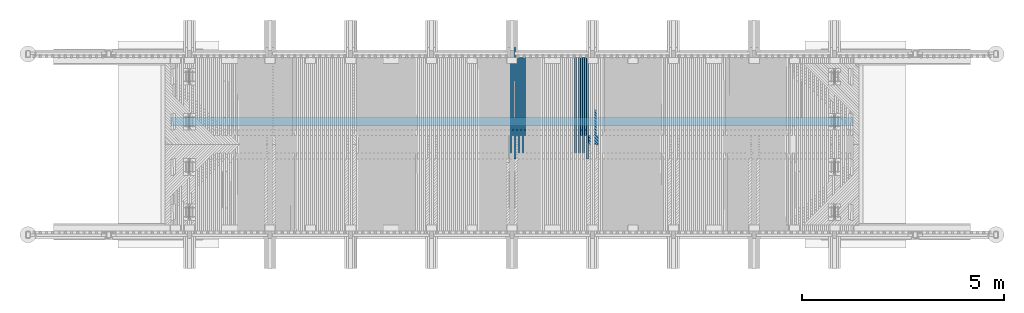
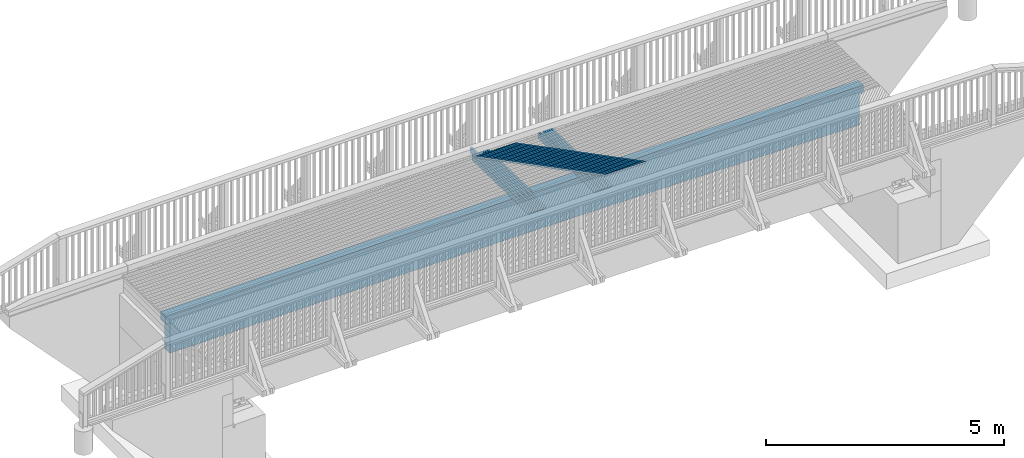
# One storey, part 34 of 53: 29 beams.
"""IFC2X3 building model written with IfcOpenShell, lengths in millimetres."""

from ifc_helpers import new_model, si_unit, frame, origin_with_axes, place, context, subcontext, project, spatial, faceted_brep, material, type_object, element, save


model = new_model("IFC2X3")

# Units and contexts
model_context = context("Model", 3, precision=1e-05, world=origin_with_axes())
body_context = subcontext(model_context, "Body", "Model", "MODEL_VIEW")
ifc_project = project(units=[si_unit("LENGTHUNIT", "METRE", prefix="MILLI"), si_unit("AREAUNIT", "SQUARE_METRE"), si_unit("VOLUMEUNIT", "CUBIC_METRE"), si_unit("MASSUNIT", "GRAM", prefix="KILO"), si_unit("TIMEUNIT", "SECOND"), si_unit("PLANEANGLEUNIT", "RADIAN"), si_unit("SOLIDANGLEUNIT", "STERADIAN"), si_unit("THERMODYNAMICTEMPERATUREUNIT", "DEGREE_CELSIUS"), si_unit("LUMINOUSINTENSITYUNIT", "LUMEN")], contexts=[model_context])

# Site, building, storey
site_placement = place(None, origin_with_axes())
site = spatial("IfcSite", under=ifc_project, at=site_placement, Name="Undefined", CompositionType="ELEMENT")
building_placement = place(site_placement, origin_with_axes())
building = spatial("IfcBuilding", under=site, at=building_placement, Name="Undefined", CompositionType="ELEMENT")
storey_placement = place(building_placement, origin_with_axes())
storey = spatial("IfcBuildingStorey", under=building, at=storey_placement, Name="Undefined", CompositionType="ELEMENT", Elevation=0.0)

# Beams
ifc_material = material(Name="TIMBER/Timber_Undefined")
beam_type_1 = type_object("IfcBeamType", Name="50*50", PredefinedType="NOTDEFINED")
for number, where, z_axis, x_axis, name in (
    (1, (10894.0405199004, 42365.4998996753, 3229.16691949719), (0.707044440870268, 0.706981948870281, -0.0162690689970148), (-0.707162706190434, 0.706948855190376, -0.0120092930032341), "BEAM"),
    (2, (10823.3170835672, 42365.4998996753, 3229.50270179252), (0.70704634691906, 0.706981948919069, -0.0161860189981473), (-0.707161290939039, 0.706948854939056, -0.0120923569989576), "BEAM"),
    (3, (10752.5936082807, 42365.4998996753, 3229.83017686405), (0.70704824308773, 0.706981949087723, -0.0161029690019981), (-0.707159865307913, 0.706948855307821, -0.0121754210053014), "BEAM"),
    (4, (10681.8700950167, 42365.4998996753, 3230.14934470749), (0.707050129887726, 0.706981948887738, -0.0160199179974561), (-0.707158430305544, 0.706948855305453, -0.0122584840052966), "BEAM"),
    (5, (10611.1465447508, 42365.4998996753, 3230.46020531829), (0.707052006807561, 0.70698194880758, -0.0159368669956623), (-0.707156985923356, 0.706948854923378, -0.0123415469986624), "BEAM"),
    (6, (10540.422958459, 42365.4998996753, 3230.76275869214), (0.707053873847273, 0.70698194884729, -0.0158538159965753), (-0.707155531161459, 0.706948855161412, -0.0124246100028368), "BEAM"),
    (7, (10469.6993371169, 42365.4998996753, 3231.05700482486), (0.707055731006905, 0.706981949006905, -0.0157707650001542), (-0.707154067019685, 0.706948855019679, -0.0125076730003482), "BEAM"),
    (8, (10398.9756817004, 42365.4998996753, 3231.34294371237), (0.707057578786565, 0.706981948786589, -0.0156877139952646), (-0.707152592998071, 0.706948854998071, -0.0125907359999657), "BEAM"),
    (9, (10328.2519931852, 42365.4998996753, 3231.62057535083), (0.707059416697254, 0.706981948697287, -0.0156046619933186), (-0.707151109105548, 0.706948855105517, -0.0126737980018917), "BEAM"),
    (10, (10257.5282725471, 42365.4998996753, 3231.88989973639), (0.707061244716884, 0.706981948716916, -0.0155216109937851), (-0.707149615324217, 0.706948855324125, -0.0127568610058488), "BEAM"),
    (11, (10186.8045207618, 42365.4998996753, 3232.15091686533), (0.707063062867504, 0.70698194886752, -0.0154385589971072), (-0.707148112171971, 0.706948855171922, -0.0128399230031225), "BEAM"),
    (12, (10116.0807388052, 42365.4998996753, 3232.40362673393), (0.707064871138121, 0.706981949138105, -0.0153555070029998), (-0.707146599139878, 0.706948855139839, -0.0129229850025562), "BEAM"),
    (13, (10045.356927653, 42365.4998996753, 3232.64802933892), (0.707066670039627, 0.706981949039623, -0.0152724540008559), (-0.707145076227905, 0.706948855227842, -0.0130060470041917), "BEAM"),
    (14, (9974.63308828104, 42365.4998996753, 3232.8841246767), (0.707068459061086, 0.706981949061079, -0.0151894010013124), (-0.707143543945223, 0.706948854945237, -0.0130891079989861), "BEAM"),
):
    element("IfcBeam", number, at=place(storey_placement, frame(where, z_axis=z_axis, x_axis=x_axis)), inside=storey, type_object=beam_type_1, material=ifc_material, Name=name, ObjectType="50*50", context=body_context, shape_type="Brep", body=[
        faceted_brep([(23.5869248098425, 25.0000000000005, -24.9999999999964), (-26.415415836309, 25.0000000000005, 25.0000000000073), (2802.92643296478, 25.0, 25.0), (2852.92877373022, 25.0, -25.0000000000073), (-25.001170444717, -24.9999999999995, 25.0000000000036), (2804.3406783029, -25.0, 24.9999999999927), (25.0011701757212, -24.9999999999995, -24.9999999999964), (2854.34301907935, -25.0, -25.0)], [[[0, 1, 2, 3]], [[1, 4, 5, 2]], [[4, 6, 7, 5]], [[6, 0, 3, 7]], [[5, 7, 3, 2]], [[6, 4, 1, 0]]]),
    ])
beam_type_2 = type_object("IfcBeamType", Name="150*50", PredefinedType="NOTDEFINED")
for number, where, z_axis, x_axis, name in (
    (15, (9875.54866800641, 44513.4953923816, 3090.22816959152), (0.00303381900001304, 0.0199960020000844, 0.999795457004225), (6.06930000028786e-05, -0.999800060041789, 0.0199959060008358), "BEAM"),
    (16, (9775.52909420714, 44513.4953923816, 3090.53149263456), (0.00286857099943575, 0.0199960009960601, 0.999795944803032), (5.73710000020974e-05, -0.999800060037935, 0.0199959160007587), "BEAM"),
):
    element("IfcBeam", number, at=place(storey_placement, frame(where, z_axis=z_axis, x_axis=x_axis)), inside=storey, type_object=beam_type_2, material=ifc_material, Name=name, ObjectType="150*50", context=body_context, shape_type="Brep", body=[
        faceted_brep([(1.28420651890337e-08, -24.9999999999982, -74.9999999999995), (1.28420651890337e-08, 25.0000000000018, -75.0), (2375.00494422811, 25.0000000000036, -75.0), (2375.0049444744, -24.9999999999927, -74.9999999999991), (-1.28347892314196e-08, -24.9999999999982, 75.0), (-1.28347892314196e-08, 25.0, 75.0), (2150.42515052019, 25.0000000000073, 75.0), (2510.59248715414, 25.0000000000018, 60.5875433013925), (2510.5924871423, -24.9999999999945, 60.5875430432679), (2150.42514405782, -24.9999999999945, 75.0)], [[[0, 1, 2, 3]], [[0, 4, 5, 1]], [[2, 1, 5, 6, 7]], [[3, 2, 7, 8]], [[4, 0, 3, 8, 9]], [[5, 4, 9, 6]], [[8, 7, 6, 9]]]),
    ])
beam_1_placement = place(storey_placement, frame((9825.54889674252, 44513.4953923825, 3090.37966862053), z_axis=(0.00303381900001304, 0.0199960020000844, 0.999795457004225), x_axis=(6.06930000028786e-05, -0.999800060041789, 0.0199959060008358)))
element("IfcBeam", 17, at=beam_1_placement, inside=storey, type_object=beam_type_2, material=ifc_material, Name="BEAM", ObjectType="150*50", context=body_context, shape_type="Brep", body=[
    faceted_brep([(1.28420651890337e-08, -24.9999999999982, -74.9999999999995), (-1.28347892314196e-08, -24.9999999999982, 75.0), (-1.28347892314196e-08, 25.0, 75.0), (1.28420651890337e-08, 25.0000000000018, -75.0), (1789.96936408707, 24.9999999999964, 75.0000000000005), (1928.42646328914, 24.9999999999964, -74.9999999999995), (1928.42646353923, -25.0000000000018, -75.0), (1789.96936433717, -25.0000000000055, 74.9999999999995)], [[[0, 1, 2, 3]], [[3, 2, 4, 5]], [[0, 3, 5, 6]], [[1, 0, 6, 7]], [[2, 1, 7, 4]], [[5, 4, 7, 6]]]),
])
beam_2_placement = place(storey_placement, frame((9675.50947138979, 44513.4953923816, 3090.81819688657), z_axis=(0.00270244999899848, 0.019996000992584, 0.999796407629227), x_axis=(5.40480000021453e-05, -0.999800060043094, 0.0199959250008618)))
element("IfcBeam", 18, at=beam_2_placement, inside=storey, type_object=beam_type_2, material=ifc_material, Name="BEAM", ObjectType="150*50", context=body_context, shape_type="Brep", body=[
    faceted_brep([(1.28420651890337e-08, -24.9999999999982, -74.9999999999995), (1.28420651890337e-08, 25.0000000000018, -75.0), (2375.00494422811, 25.0000000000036, -75.0), (2375.0049444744, -24.9999999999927, -74.9999999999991), (-1.28347892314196e-08, -24.9999999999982, 75.0), (-1.28347892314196e-08, 25.0, 75.0), (2150.42515052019, 25.0000000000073, 75.0), (2510.59248715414, 25.0000000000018, 60.5875433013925), (2510.5924871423, -24.9999999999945, 60.5875430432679), (2150.42514405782, -24.9999999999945, 75.0)], [[[0, 1, 2, 3]], [[0, 4, 5, 1]], [[2, 1, 5, 6, 7]], [[3, 2, 7, 8]], [[4, 0, 3, 8, 9]], [[5, 4, 9, 6]], [[8, 7, 6, 9]]]),
])
beam_3_placement = place(storey_placement, frame((9725.52929846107, 44513.4953923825, 3090.67468393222), z_axis=(0.00286857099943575, 0.0199960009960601, 0.999795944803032), x_axis=(5.73710000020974e-05, -0.999800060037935, 0.0199959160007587)))
element("IfcBeam", 19, at=beam_3_placement, inside=storey, type_object=beam_type_2, material=ifc_material, Name="BEAM", ObjectType="150*50", context=body_context, shape_type="Brep", body=[
    faceted_brep([(1.28420651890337e-08, -24.9999999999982, -74.9999999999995), (-1.28347892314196e-08, -24.9999999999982, 75.0), (-1.28347892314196e-08, 25.0, 75.0), (1.28420651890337e-08, 25.0000000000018, -75.0), (1789.96936408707, 24.9999999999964, 75.0000000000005), (1928.42646328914, 24.9999999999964, -74.9999999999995), (1928.42646353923, -25.0000000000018, -75.0), (1789.96936433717, -25.0000000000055, 74.9999999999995)], [[[0, 1, 2, 3]], [[3, 2, 4, 5]], [[0, 3, 5, 6]], [[1, 0, 6, 7]], [[2, 1, 7, 4]], [[5, 4, 7, 6]]]),
])
for number, where, z_axis, x_axis, name in (
    (20, (9575.48980231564, 44513.4953923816, 3091.08828233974), (0.0025363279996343, 0.0199960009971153, 0.999796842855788), (5.07260000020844e-05, -0.999800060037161, 0.0199959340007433), "BEAM"),
    (21, (8275.23115137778, 44513.4953923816, 3093.08707977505), (0.000376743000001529, 0.0199960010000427, 0.999799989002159), (7.53400000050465e-06, -0.999800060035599, 0.0199959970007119), "BEAM"),
):
    element("IfcBeam", number, at=place(storey_placement, frame(where, z_axis=z_axis, x_axis=x_axis)), inside=storey, type_object=beam_type_2, material=ifc_material, Name=name, ObjectType="150*50", context=body_context, shape_type="Brep", body=[
        faceted_brep([(1.28420651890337e-08, -24.9999999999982, -74.9999999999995), (1.28420651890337e-08, 25.0000000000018, -75.0), (2375.00494422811, 25.0000000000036, -75.0), (2375.0049444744, -24.9999999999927, -74.9999999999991), (-1.28347892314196e-08, -24.9999999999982, 75.0), (-1.28347892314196e-08, 25.0, 75.0), (2150.42515052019, 25.0000000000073, 75.0), (2510.59248715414, 25.0000000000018, 60.5875433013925), (2510.5924871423, -24.9999999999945, 60.5875430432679), (2150.42514405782, -24.9999999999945, 75.0)], [[[0, 1, 2, 3]], [[0, 4, 5, 1]], [[2, 1, 5, 6, 7]], [[3, 2, 7, 8]], [[4, 0, 3, 8, 9]], [[5, 4, 9, 6]], [[8, 7, 6, 9]]]),
    ])
beam_4_placement = place(storey_placement, frame((8325.25117695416, 44513.4953923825, 3093.05992196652), z_axis=(0.000542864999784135, 0.019996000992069, 0.999799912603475), x_axis=(1.08570000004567e-05, -0.999800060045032, 0.0199959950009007)))
element("IfcBeam", 22, at=beam_4_placement, inside=storey, type_object=beam_type_2, material=ifc_material, Name="BEAM", ObjectType="150*50", context=body_context, shape_type="Brep", body=[
    faceted_brep([(1.28420651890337e-08, -24.9999999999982, -74.9999999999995), (-1.28347892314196e-08, -24.9999999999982, 75.0), (-1.28347892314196e-08, 25.0, 75.0), (1.28420651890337e-08, 25.0000000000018, -75.0), (1789.96936408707, 24.9999999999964, 75.0000000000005), (1928.42646328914, 24.9999999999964, -74.9999999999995), (1928.42646353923, -25.0000000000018, -75.0), (1789.96936433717, -25.0000000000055, 74.9999999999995)], [[[0, 1, 2, 3]], [[3, 2, 4, 5]], [[0, 3, 5, 6]], [[1, 0, 6, 7]], [[2, 1, 7, 4]], [[5, 4, 7, 6]]]),
])
beam_5_placement = place(storey_placement, frame((8175.21112464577, 44513.4953923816, 3093.12450147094), z_axis=(0.000209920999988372, 0.0199960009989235, 0.999800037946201), x_axis=(4.21200000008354e-06, -0.999800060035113, 0.0199959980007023)))
element("IfcBeam", 23, at=beam_5_placement, inside=storey, type_object=beam_type_2, material=ifc_material, Name="BEAM", ObjectType="150*50", context=body_context, shape_type="Brep", body=[
    faceted_brep([(1.28420651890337e-08, -24.9999999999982, -74.9999999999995), (1.28420651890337e-08, 25.0000000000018, -75.0), (2375.00494422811, 25.0000000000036, -75.0), (2375.0049444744, -24.9999999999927, -74.9999999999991), (-1.28347892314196e-08, -24.9999999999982, 75.0), (-1.28347892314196e-08, 25.0, 75.0), (2150.42515052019, 25.0000000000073, 75.0), (2510.59248715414, 25.0000000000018, 60.5875433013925), (2510.5924871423, -24.9999999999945, 60.5875430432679), (2150.42514405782, -24.9999999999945, 75.0)], [[[0, 1, 2, 3]], [[0, 4, 5, 1]], [[2, 1, 5, 6, 7]], [[3, 2, 7, 8]], [[4, 0, 3, 8, 9]], [[5, 4, 9, 6]], [[8, 7, 6, 9]]]),
])
for number, where, z_axis, x_axis, name in (
    (24, (8225.23115404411, 44513.4953923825, 3093.10565475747), (0.000376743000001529, 0.0199960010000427, 0.999799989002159), (7.53400000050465e-06, -0.999800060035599, 0.0199959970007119), "BEAM"),
    (25, (8125.21112491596, 44513.4953923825, 3093.13476868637), (0.000209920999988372, 0.0199960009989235, 0.999800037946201), (4.21200000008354e-06, -0.999800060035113, 0.0199959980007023), "BEAM"),
):
    element("IfcBeam", number, at=place(storey_placement, frame(where, z_axis=z_axis, x_axis=x_axis)), inside=storey, type_object=beam_type_2, material=ifc_material, Name=name, ObjectType="150*50", context=body_context, shape_type="Brep", body=[
        faceted_brep([(1.28420651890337e-08, -24.9999999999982, -74.9999999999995), (-1.28347892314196e-08, -24.9999999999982, 75.0), (-1.28347892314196e-08, 25.0, 75.0), (1.28420651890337e-08, 25.0000000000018, -75.0), (1789.96936408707, 24.9999999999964, 75.0000000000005), (1928.42646328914, 24.9999999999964, -74.9999999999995), (1928.42646353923, -25.0000000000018, -75.0), (1789.96936433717, -25.0000000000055, 74.9999999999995)], [[[0, 1, 2, 3]], [[3, 2, 4, 5]], [[0, 3, 5, 6]], [[1, 0, 6, 7]], [[2, 1, 7, 4]], [[5, 4, 7, 6]]]),
    ])
beam_6_placement = place(storey_placement, frame((7975.1710594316, 44513.4953923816, 3093.14948827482), z_axis=(-0.000122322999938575, 0.0199960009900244, 0.999800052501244), x_axis=(-2.7550000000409e-06, -0.999800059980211, 0.0199960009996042)))
element("IfcBeam", 26, at=beam_6_placement, inside=storey, type_object=beam_type_2, material=ifc_material, Name="BEAM", ObjectType="150*50", context=body_context, shape_type="Brep", body=[
    faceted_brep([(1.28420651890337e-08, -24.9999999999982, -74.9999999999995), (1.28420651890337e-08, 25.0000000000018, -75.0), (2375.00494422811, 25.0000000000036, -75.0), (2375.0049444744, -24.9999999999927, -74.9999999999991), (-1.28347892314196e-08, -24.9999999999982, 75.0), (-1.28347892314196e-08, 25.0, 75.0), (2150.42515052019, 25.0000000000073, 75.0), (2510.59248715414, 25.0000000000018, 60.5875433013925), (2510.5924871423, -24.9999999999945, 60.5875430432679), (2150.42514405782, -24.9999999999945, 75.0)], [[[0, 1, 2, 3]], [[0, 4, 5, 1]], [[2, 1, 5, 6, 7]], [[3, 2, 7, 8]], [[4, 0, 3, 8, 9]], [[5, 4, 9, 6]], [[8, 7, 6, 9]]]),
])
beam_7_placement = place(storey_placement, frame((8025.19109233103, 44513.4953923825, 3093.14726375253), z_axis=(4.3799000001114e-05, 0.0199960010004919, 0.999800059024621), x_axis=(8.90000000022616e-07, -0.999800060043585, 0.0199959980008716)))
element("IfcBeam", 27, at=beam_7_placement, inside=storey, type_object=beam_type_2, material=ifc_material, Name="BEAM", ObjectType="150*50", context=body_context, shape_type="Brep", body=[
    faceted_brep([(1.28420651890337e-08, -24.9999999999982, -74.9999999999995), (-1.28347892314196e-08, -24.9999999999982, 75.0), (-1.28347892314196e-08, 25.0, 75.0), (1.28420651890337e-08, 25.0000000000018, -75.0), (1789.96936408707, 24.9999999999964, 75.0000000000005), (1928.42646328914, 24.9999999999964, -74.9999999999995), (1928.42646353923, -25.0000000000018, -75.0), (1789.96936433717, -25.0000000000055, 74.9999999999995)], [[[0, 1, 2, 3]], [[3, 2, 4, 5]], [[0, 3, 5, 6]], [[1, 0, 6, 7]], [[2, 1, 7, 4]], [[5, 4, 7, 6]]]),
])
beam_8_placement = place(storey_placement, frame((8075.17061305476, 44771.443807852, 3087.98545943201), z_axis=(4.3799000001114e-05, 0.0199960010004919, 0.999800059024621), x_axis=(8.90000000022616e-07, -0.999800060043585, 0.0199959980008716)))
element("IfcBeam", 28, at=beam_8_placement, inside=storey, type_object=beam_type_2, material=ifc_material, Name="BEAM", ObjectType="150*50", context=body_context, shape_type="Brep", body=[
    faceted_brep([(1.28420651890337e-08, -24.9999999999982, -74.9999999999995), (1.28420651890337e-08, 25.0000000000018, -75.0), (2633.00494750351, 25.0, -75.0), (2633.00494763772, -25.0, -75.0), (-1.28347892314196e-08, -24.9999999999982, 75.0), (-1.28347892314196e-08, 25.0, 75.0), (2408.42506824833, 24.9999999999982, 75.0), (2768.59248710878, 24.9999999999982, 60.5875398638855), (2768.59248713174, -25.0, 60.5875397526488), (2408.42506549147, -25.0000000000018, 75.0000000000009)], [[[0, 1, 2, 3]], [[0, 4, 5, 1]], [[2, 1, 5, 6, 7]], [[3, 2, 7, 8]], [[4, 0, 3, 8, 9]], [[5, 4, 9, 6]], [[8, 7, 6, 9]]]),
])
beam_type_3 = type_object("IfcBeamType", Name="990*215", PredefinedType="NOTDEFINED")
beam_9_placement = place(storey_placement, frame((243.613169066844, 42925.0, 2502.11879463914), z_axis=(0.0, 0.0, 1.0), x_axis=(1.0, 0.0, 0.0)))
element("IfcBeam", 29, at=beam_9_placement, inside=storey, type_object=beam_type_3, material=ifc_material, Name="PALKKI", ObjectType="990*215", context=body_context, shape_type="Brep", body=[
    faceted_brep([(16106.3868309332, 107.5, -494.790894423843), (16106.3868309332, -107.5, -494.790894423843), (16080.5342107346, -107.5, -494.790894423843), (15793.4597682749, -107.5, -494.790894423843), (15506.3868309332, -107.5, -494.958794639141), (15506.3868309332, 107.5, -494.958794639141), (15793.4597682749, 107.5, -494.790894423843), (16080.5342107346, 107.5, -494.790894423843), (16106.3868309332, 107.5, 285.209105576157), (16106.3868309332, -107.5, 285.209105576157), (16206.3868309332, 107.5, 285.209105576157), (16206.3868309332, -107.5, 285.209105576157), (16206.3868309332, 107.5, 485.682039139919), (16206.3868309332, -107.5, 485.682039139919), (-627.370013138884, 107.5, 486.625216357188), (-627.370013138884, -107.5, 486.625216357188), (-316.879497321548, -107.5, 490.87213125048), (-316.879497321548, 107.5, 490.87213125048), (-693.613169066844, -107.5, 485.684940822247), (-693.613169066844, -107.5, 285.209105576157), (-624.563039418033, -107.5, 285.209105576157), (-693.613169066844, 107.5, 485.684940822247), (-693.613169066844, 107.5, 285.209105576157), (-624.563039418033, 107.5, 285.209105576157), (-593.613169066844, 107.5, 285.209105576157), (-593.613169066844, -107.5, 285.209105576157), (-593.613169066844, 107.5, -494.790894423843), (-593.613169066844, -107.5, -494.790894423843), (-303.651924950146, -107.5, -494.790894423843), (-6.38683093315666, -107.5, 494.958794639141), (6.38683093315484, -107.5, -494.958794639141), (-6.38683093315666, 107.5, 494.958794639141), (6.38683093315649, 107.5, -494.790894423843), (304.107903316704, 107.5, 498.885205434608), (316.370645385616, 107.5, -491.038844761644), (-303.651924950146, 107.5, -494.790894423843), (316.370645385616, -107.5, -491.038844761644), (304.107903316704, -107.5, 498.885205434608), (614.604622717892, -107.5, 502.651362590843), (614.604622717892, 107.5, 502.651362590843), (626.356441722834, 107.5, -487.278884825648), (626.356441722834, -107.5, -487.278884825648), (936.344137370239, -107.5, -483.678915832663), (925.103244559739, -107.5, 506.257265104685), (925.103244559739, 107.5, 506.257265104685), (936.344137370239, 107.5, -483.678915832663), (1246.33364975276, 107.5, -480.238938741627), (1246.33364975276, -107.5, -480.238938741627), (1235.60368613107, -107.5, 509.702912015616), (1235.60368613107, 107.5, 509.702912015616), (1546.10586472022, 107.5, 512.988302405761), (1556.32489629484, 107.5, -476.958954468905), (1556.32489629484, -107.5, -476.958954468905), (1546.10586472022, -107.5, 512.988302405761), (1856.60969761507, -107.5, 516.113435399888), (1856.60969761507, 107.5, 516.113435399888), (1866.31779442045, 107.5, -473.838963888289), (1866.31779442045, -107.5, -473.838963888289), (2176.31226155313, -107.5, -470.878967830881), (2167.11510210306, -107.5, 519.078310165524), (2167.11510210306, 107.5, 519.078310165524), (2176.31226155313, 107.5, -470.878967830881), (2486.30821511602, 107.5, -468.078967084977), (2486.30821511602, -107.5, -468.078967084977), (2477.6219954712, -107.5, 521.882925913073), (2477.6219954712, 107.5, 521.882925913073), (2788.13029500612, 107.5, 524.527281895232), (2796.30557253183, 107.5, -465.438962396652), (2796.30557253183, -107.5, -465.438962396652), (2788.13029500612, -107.5, 524.527281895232), (3098.63991799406, -107.5, 527.011377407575), (3098.63991799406, 107.5, 527.011377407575), (3106.30425122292, 107.5, -462.958954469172), (3106.30425122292, -107.5, -462.958954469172), (3416.30416861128, -107.5, -460.638943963), (3409.15078172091, -107.5, 529.335211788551), (3409.15078172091, 107.5, 529.335211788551), (3416.30416861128, 107.5, -460.638943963), (3726.30524211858, 107.5, -458.478931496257), (3726.30524211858, -107.5, -458.478931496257), (3719.66280347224, -107.5, 531.49878441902), (3719.66280347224, 107.5, 531.49878441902), (4030.1759005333, 107.5, 533.502094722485), (4036.3073891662, 107.5, -456.478917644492), (4036.3073891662, -107.5, -456.478917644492), (4030.1759005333, -107.5, 533.502094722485), (4340.68999018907, -107.5, 535.345142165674), (4340.68999018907, 107.5, 535.345142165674), (4346.3105271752, 107.5, -454.638902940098), (4346.3105271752, -107.5, -454.638902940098), (4656.31457356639, -107.5, -452.958887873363), (4651.20498972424, -107.5, 537.027926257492), (4651.20498972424, 107.5, 537.027926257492), (4656.31457356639, 107.5, -452.958887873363), (4966.31944576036, 107.5, -451.438872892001), (4966.31944576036, -107.5, -451.438872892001), (4961.72081642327, -107.5, 538.550446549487), (4961.72081642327, 107.5, 538.550446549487), (5272.23738757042, 107.5, 539.912702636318), (5276.32506117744, 107.5, -450.078858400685), (5276.32506117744, -107.5, -450.078858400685), (5272.23738757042, -107.5, 539.912702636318), (5582.75462044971, -107.5, 541.114694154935), (5582.75462044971, 107.5, 541.114694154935), (5586.33133723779, 107.5, -448.878844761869), (5586.33133723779, -107.5, -448.878844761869), (5896.33819136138, -107.5, -447.838832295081), (5893.27243234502, -107.5, 542.156420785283), (5893.27243234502, 107.5, 542.156420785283), (5896.33819136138, 107.5, -447.838832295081), (6206.34554096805, 107.5, -446.958821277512), (6206.34554096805, -107.5, -446.958821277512), (6203.79074054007, -107.5, 543.037882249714), (6203.79074054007, 107.5, 543.037882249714), (6514.30946231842, 107.5, 543.759078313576), (6516.35330347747, 107.5, -446.238811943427), (6516.35330347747, -107.5, -446.238811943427), (6514.30946231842, -107.5, 543.759078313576), (6824.82851496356, -107.5, 544.320008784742), (6824.82851496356, 107.5, 544.320008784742), (6826.36139630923, 107.5, -445.678804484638), (6826.36139630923, -107.5, -445.678804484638), (7136.36973688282, -107.5, -445.278799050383), (7135.34781575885, -107.5, 544.720673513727), (7135.34781575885, 107.5, 544.720673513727), (7136.36973688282, 107.5, -445.278799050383), (7446.37824261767, 107.5, -445.038795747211), (7446.37824261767, -107.5, -445.038795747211), (7445.86728198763, -107.5, 544.961072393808), (7445.86728198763, 107.5, 544.961072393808), (7756.38683093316, 107.5, 545.041205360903), (7756.38683093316, 107.5, -444.958794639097), (7756.38683093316, -107.5, -444.958794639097), (7756.38683093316, -107.5, 545.041205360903), (8066.90637987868, -107.5, 544.961072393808), (8066.90637987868, 107.5, 544.961072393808), (8066.39541924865, 107.5, -445.038795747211), (8066.39541924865, -107.5, -445.038795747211), (8376.40392498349, -107.5, -445.278799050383), (8377.42584610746, -107.5, 544.720673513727), (8377.42584610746, 107.5, 544.720673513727), (8376.40392498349, 107.5, -445.278799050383), (8686.41226555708, 107.5, -445.678804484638), (8686.41226555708, -107.5, -445.678804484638), (8687.94514690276, -107.5, 544.320008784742), (8687.94514690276, 107.5, 544.320008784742), (8998.46419954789, 107.5, 543.759078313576), (8996.42035838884, 107.5, -446.238811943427), (8996.42035838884, -107.5, -446.238811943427), (8998.46419954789, -107.5, 543.759078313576), (9308.98292132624, -107.5, 543.037882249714), (9308.98292132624, 107.5, 543.037882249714), (9306.42812089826, 107.5, -446.958821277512), (9306.42812089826, -107.5, -446.958821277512), (9616.43547050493, -107.5, -447.838832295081), (9619.50122952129, -107.5, 542.156420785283), (9619.50122952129, 107.5, 542.156420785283), (9616.43547050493, 107.5, -447.838832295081), (9926.44232462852, 107.5, -448.878844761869), (9926.44232462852, -107.5, -448.878844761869), (9930.0190414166, -107.5, 541.114694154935), (9930.0190414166, 107.5, 541.114694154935), (10240.5362742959, 107.5, 539.912702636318), (10236.4486006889, 107.5, -450.078858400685), (10236.4486006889, -107.5, -450.078858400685), (10240.5362742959, -107.5, 539.912702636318), (10551.052845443, -107.5, 538.550446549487), (10551.052845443, 107.5, 538.550446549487), (10546.454216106, 107.5, -451.438872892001), (10546.454216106, -107.5, -451.438872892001), (10856.4590882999, -107.5, -452.958887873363), (10861.5686721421, -107.5, 537.027926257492), (10861.5686721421, 107.5, 537.027926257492), (10856.4590882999, 107.5, -452.958887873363), (11166.4631346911, 107.5, -454.638902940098), (11166.4631346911, -107.5, -454.638902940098), (11172.0836716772, -107.5, 535.345142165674), (11172.0836716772, 107.5, 535.345142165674), (11482.597761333, 107.5, 533.502094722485), (11476.4662727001, 107.5, -456.478917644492), (11476.4662727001, -107.5, -456.478917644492), (11482.597761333, -107.5, 533.502094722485), (11793.1108583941, -107.5, 531.49878441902), (11793.1108583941, 107.5, 531.49878441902), (11786.4684197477, 107.5, -458.478931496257), (11786.4684197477, -107.5, -458.478931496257), (12096.469493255, -107.5, -460.638943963), (12103.6228801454, -107.5, 529.335211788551), (12103.6228801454, 107.5, 529.335211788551), (12096.469493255, 107.5, -460.638943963), (12406.4694106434, 107.5, -462.958954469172), (12406.4694106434, -107.5, -462.958954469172), (12414.1337438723, -107.5, 527.011377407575), (12414.1337438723, 107.5, 527.011377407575), (12724.6433668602, 107.5, 524.527281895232), (12716.4680893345, 107.5, -465.438962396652), (12716.4680893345, -107.5, -465.438962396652), (12724.6433668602, -107.5, 524.527281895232), (13035.1516663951, -107.5, 521.882925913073), (13035.1516663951, 107.5, 521.882925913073), (13026.4654467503, 107.5, -468.078967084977), (13026.4654467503, -107.5, -468.078967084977), (13336.4614003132, -107.5, -470.878967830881), (13345.6585597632, -107.5, 519.078310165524), (13345.6585597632, 107.5, 519.078310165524), (13336.4614003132, 107.5, -470.878967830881), (13646.4558674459, 107.5, -473.838963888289), (13646.4558674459, -107.5, -473.838963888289), (13656.1639642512, -107.5, 516.113435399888), (13656.1639642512, 107.5, 516.113435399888), (13966.6677971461, 107.5, 512.988302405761), (13956.4487655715, 107.5, -476.958954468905), (13956.4487655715, -107.5, -476.958954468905), (13966.6677971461, -107.5, 512.988302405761), (14277.1699757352, -107.5, 509.702912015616), (14277.1699757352, 107.5, 509.702912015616), (14266.4400121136, 107.5, -480.238938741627), (14266.4400121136, -107.5, -480.238938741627), (14576.4295244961, -107.5, -483.678915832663), (14587.6704173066, -107.5, 506.257265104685), (14587.6704173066, 107.5, 506.257265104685), (14576.4295244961, 107.5, -483.678915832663), (14886.4172201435, 107.5, -487.278884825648), (14886.4172201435, -107.5, -487.278884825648), (14898.1690391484, -107.5, 502.651362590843), (14898.1690391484, 107.5, 502.651362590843), (15208.6657585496, 107.5, 498.885205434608), (15196.4030164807, 107.5, -491.038844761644), (15196.4030164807, -107.5, -491.038844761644), (15208.6657585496, -107.5, 498.885205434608), (15519.1604927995, -107.5, 494.958794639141), (15519.1604927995, 107.5, 494.958794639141), (15806.6537751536, -107.5, 491.180342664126), (15806.6537751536, 107.5, 491.180342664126), (16094.1452189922, -107.5, 487.264500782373), (16094.1452189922, 107.5, 487.264500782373)], [[[0, 1, 2, 3, 4, 5, 6, 7]], [[8, 9, 1, 0]], [[10, 11, 9, 8]], [[12, 13, 11, 10]], [[14, 15, 16, 17]], [[15, 18, 19, 20]], [[21, 22, 19, 18]], [[15, 14, 21, 18]], [[21, 14, 23, 22]], [[24, 25, 20, 19, 22, 23]], [[26, 27, 25, 24]], [[16, 15, 20, 25, 27, 28]], [[29, 16, 28, 30]], [[17, 16, 29, 31]], [[32, 31, 33, 34]], [[17, 31, 32, 35]], [[24, 23, 14, 17, 35, 26]], [[32, 30, 28, 27, 26, 35]], [[34, 36, 30, 32]], [[29, 30, 36, 37]], [[31, 29, 37, 33]], [[33, 37, 38, 39]], [[34, 33, 39, 40]], [[36, 34, 40, 41]], [[37, 36, 41, 38]], [[38, 41, 42, 43]], [[39, 38, 43, 44]], [[40, 39, 44, 45]], [[41, 40, 45, 42]], [[42, 45, 46, 47]], [[43, 42, 47, 48]], [[44, 43, 48, 49]], [[45, 44, 49, 46]], [[46, 49, 50, 51]], [[47, 46, 51, 52]], [[48, 47, 52, 53]], [[49, 48, 53, 50]], [[50, 53, 54, 55]], [[51, 50, 55, 56]], [[52, 51, 56, 57]], [[53, 52, 57, 54]], [[54, 57, 58, 59]], [[55, 54, 59, 60]], [[56, 55, 60, 61]], [[57, 56, 61, 58]], [[58, 61, 62, 63]], [[59, 58, 63, 64]], [[60, 59, 64, 65]], [[61, 60, 65, 62]], [[62, 65, 66, 67]], [[63, 62, 67, 68]], [[64, 63, 68, 69]], [[65, 64, 69, 66]], [[66, 69, 70, 71]], [[67, 66, 71, 72]], [[68, 67, 72, 73]], [[69, 68, 73, 70]], [[70, 73, 74, 75]], [[71, 70, 75, 76]], [[72, 71, 76, 77]], [[73, 72, 77, 74]], [[74, 77, 78, 79]], [[75, 74, 79, 80]], [[76, 75, 80, 81]], [[77, 76, 81, 78]], [[78, 81, 82, 83]], [[79, 78, 83, 84]], [[80, 79, 84, 85]], [[81, 80, 85, 82]], [[82, 85, 86, 87]], [[83, 82, 87, 88]], [[84, 83, 88, 89]], [[85, 84, 89, 86]], [[86, 89, 90, 91]], [[87, 86, 91, 92]], [[88, 87, 92, 93]], [[89, 88, 93, 90]], [[90, 93, 94, 95]], [[91, 90, 95, 96]], [[92, 91, 96, 97]], [[93, 92, 97, 94]], [[94, 97, 98, 99]], [[95, 94, 99, 100]], [[96, 95, 100, 101]], [[97, 96, 101, 98]], [[98, 101, 102, 103]], [[99, 98, 103, 104]], [[100, 99, 104, 105]], [[101, 100, 105, 102]], [[102, 105, 106, 107]], [[103, 102, 107, 108]], [[104, 103, 108, 109]], [[105, 104, 109, 106]], [[106, 109, 110, 111]], [[107, 106, 111, 112]], [[108, 107, 112, 113]], [[109, 108, 113, 110]], [[110, 113, 114, 115]], [[111, 110, 115, 116]], [[112, 111, 116, 117]], [[113, 112, 117, 114]], [[114, 117, 118, 119]], [[115, 114, 119, 120]], [[116, 115, 120, 121]], [[117, 116, 121, 118]], [[118, 121, 122, 123]], [[119, 118, 123, 124]], [[120, 119, 124, 125]], [[121, 120, 125, 122]], [[122, 125, 126, 127]], [[123, 122, 127, 128]], [[124, 123, 128, 129]], [[125, 124, 129, 126]], [[126, 129, 130, 131]], [[127, 126, 131, 132]], [[128, 127, 132, 133]], [[129, 128, 133, 130]], [[130, 133, 134, 135]], [[131, 130, 135, 136]], [[132, 131, 136, 137]], [[133, 132, 137, 134]], [[134, 137, 138, 139]], [[135, 134, 139, 140]], [[136, 135, 140, 141]], [[137, 136, 141, 138]], [[138, 141, 142, 143]], [[139, 138, 143, 144]], [[140, 139, 144, 145]], [[141, 140, 145, 142]], [[142, 145, 146, 147]], [[143, 142, 147, 148]], [[144, 143, 148, 149]], [[145, 144, 149, 146]], [[146, 149, 150, 151]], [[147, 146, 151, 152]], [[148, 147, 152, 153]], [[149, 148, 153, 150]], [[150, 153, 154, 155]], [[151, 150, 155, 156]], [[152, 151, 156, 157]], [[153, 152, 157, 154]], [[154, 157, 158, 159]], [[155, 154, 159, 160]], [[156, 155, 160, 161]], [[157, 156, 161, 158]], [[158, 161, 162, 163]], [[159, 158, 163, 164]], [[160, 159, 164, 165]], [[161, 160, 165, 162]], [[162, 165, 166, 167]], [[163, 162, 167, 168]], [[164, 163, 168, 169]], [[165, 164, 169, 166]], [[166, 169, 170, 171]], [[167, 166, 171, 172]], [[168, 167, 172, 173]], [[169, 168, 173, 170]], [[170, 173, 174, 175]], [[171, 170, 175, 176]], [[172, 171, 176, 177]], [[173, 172, 177, 174]], [[174, 177, 178, 179]], [[175, 174, 179, 180]], [[176, 175, 180, 181]], [[177, 176, 181, 178]], [[178, 181, 182, 183]], [[179, 178, 183, 184]], [[180, 179, 184, 185]], [[181, 180, 185, 182]], [[182, 185, 186, 187]], [[183, 182, 187, 188]], [[184, 183, 188, 189]], [[185, 184, 189, 186]], [[186, 189, 190, 191]], [[187, 186, 191, 192]], [[188, 187, 192, 193]], [[189, 188, 193, 190]], [[190, 193, 194, 195]], [[191, 190, 195, 196]], [[192, 191, 196, 197]], [[193, 192, 197, 194]], [[194, 197, 198, 199]], [[195, 194, 199, 200]], [[196, 195, 200, 201]], [[197, 196, 201, 198]], [[198, 201, 202, 203]], [[199, 198, 203, 204]], [[200, 199, 204, 205]], [[201, 200, 205, 202]], [[202, 205, 206, 207]], [[203, 202, 207, 208]], [[204, 203, 208, 209]], [[205, 204, 209, 206]], [[206, 209, 210, 211]], [[207, 206, 211, 212]], [[208, 207, 212, 213]], [[209, 208, 213, 210]], [[210, 213, 214, 215]], [[211, 210, 215, 216]], [[212, 211, 216, 217]], [[213, 212, 217, 214]], [[214, 217, 218, 219]], [[215, 214, 219, 220]], [[216, 215, 220, 221]], [[217, 216, 221, 218]], [[218, 221, 222, 223]], [[219, 218, 223, 224]], [[220, 219, 224, 225]], [[221, 220, 225, 222]], [[222, 225, 226, 227]], [[223, 222, 227, 228]], [[224, 223, 228, 229]], [[225, 224, 229, 226]], [[226, 229, 230, 231]], [[231, 230, 232, 233]], [[233, 232, 234, 235]], [[8, 0, 7, 235, 12, 10]], [[233, 235, 7, 6]], [[231, 233, 6, 5]], [[227, 226, 231, 5]], [[228, 227, 5, 4]], [[229, 228, 4, 230]], [[232, 230, 4, 3]], [[234, 232, 3, 2]], [[234, 2, 1, 9, 11, 13]], [[235, 234, 13, 12]]]),
])

save(model, "model.ifc")
